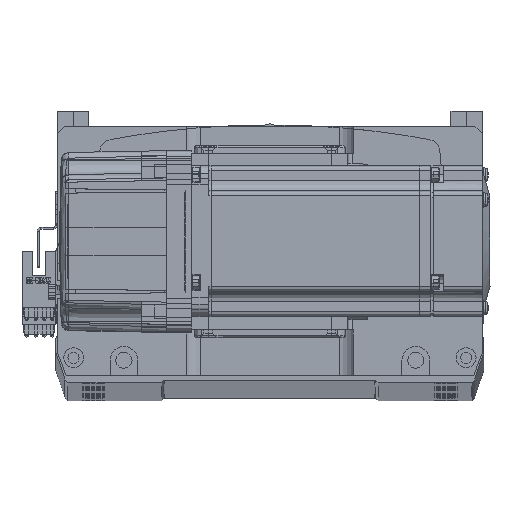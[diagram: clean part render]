
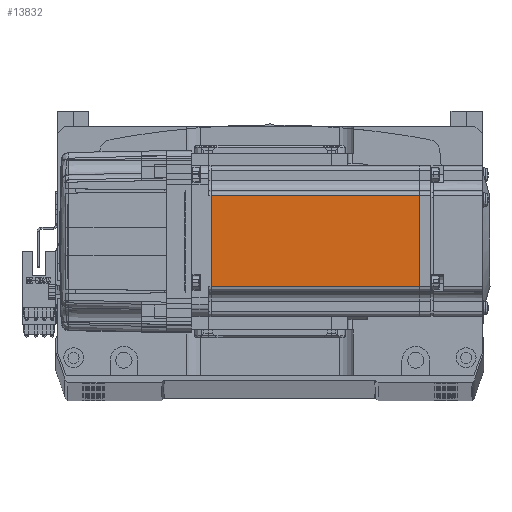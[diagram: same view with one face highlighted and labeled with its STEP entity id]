
A CAD part, top view. The second image highlights one B-rep face of the part: STEP entity #13832.
In plain terms, the highlighted planar face has unit normal (0, 0, 1) as drawn and (0, -1, 0) by its records, which use the part's own axes.
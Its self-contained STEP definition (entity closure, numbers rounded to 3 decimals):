
#1691 = LINE ( 'NONE', #11796, #3551 ) ;
#2798 = ORIENTED_EDGE ( 'NONE', *, *, #24502, .T. ) ;
#3551 = VECTOR ( 'NONE', #17350, 1000. ) ;
#5954 = EDGE_LOOP ( 'NONE', ( #26334, #49251, #5984, #2798 ) ) ;
#5984 = ORIENTED_EDGE ( 'NONE', *, *, #26872, .T. ) ;
#6680 = LINE ( 'NONE', #19379, #50055 ) ;
#8015 = DIRECTION ( 'NONE',  ( 0., 0., -1. ) ) ;
#11263 = EDGE_CURVE ( 'NONE', #48195, #12606, #44422, .T. ) ;
#11796 = CARTESIAN_POINT ( 'NONE',  ( -6.5, -30., -18. ) ) ;
#12606 = VERTEX_POINT ( 'NONE', #71095 ) ;
#13832 = ADVANCED_FACE ( 'NONE', ( #48566 ), #38893, .T. ) ;
#17350 = DIRECTION ( 'NONE',  ( 1., 0., 0. ) ) ;
#19379 = CARTESIAN_POINT ( 'NONE',  ( -90.45, -30., -25. ) ) ;
#20351 = CARTESIAN_POINT ( 'NONE',  ( -7.75, -30., -18. ) ) ;
#22739 = VECTOR ( 'NONE', #37449, 1000. ) ;
#24502 = EDGE_CURVE ( 'NONE', #58032, #48195, #1691, .T. ) ;
#26139 = AXIS2_PLACEMENT_3D ( 'NONE', #39143, #49739, #72960 ) ;
#26334 = ORIENTED_EDGE ( 'NONE', *, *, #11263, .T. ) ;
#26365 = CARTESIAN_POINT ( 'NONE',  ( -7.75, -30., -25. ) ) ;
#26872 = EDGE_CURVE ( 'NONE', #50195, #58032, #6680, .T. ) ;
#31334 = DIRECTION ( 'NONE',  ( -1., 0., 0. ) ) ;
#34184 = VECTOR ( 'NONE', #31334, 1000. ) ;
#37449 = DIRECTION ( 'NONE',  ( 0., 0., 1. ) ) ;
#38893 = PLANE ( 'NONE',  #26139 ) ;
#39143 = CARTESIAN_POINT ( 'NONE',  ( -6.5, -30., -25. ) ) ;
#39625 = CARTESIAN_POINT ( 'NONE',  ( -90.45, -30., 18. ) ) ;
#44422 = LINE ( 'NONE', #26365, #22739 ) ;
#47726 = LINE ( 'NONE', #49550, #34184 ) ;
#48195 = VERTEX_POINT ( 'NONE', #20351 ) ;
#48566 = FACE_OUTER_BOUND ( 'NONE', #5954, .T. ) ;
#49251 = ORIENTED_EDGE ( 'NONE', *, *, #66647, .T. ) ;
#49550 = CARTESIAN_POINT ( 'NONE',  ( -6.5, -30., 18. ) ) ;
#49739 = DIRECTION ( 'NONE',  ( 0., -1., 0. ) ) ;
#50055 = VECTOR ( 'NONE', #8015, 1000. ) ;
#50195 = VERTEX_POINT ( 'NONE', #39625 ) ;
#53499 = CARTESIAN_POINT ( 'NONE',  ( -90.45, -30., -18. ) ) ;
#58032 = VERTEX_POINT ( 'NONE', #53499 ) ;
#66647 = EDGE_CURVE ( 'NONE', #12606, #50195, #47726, .T. ) ;
#71095 = CARTESIAN_POINT ( 'NONE',  ( -7.75, -30., 18. ) ) ;
#72960 = DIRECTION ( 'NONE',  ( 0., 0., -1. ) ) ;
